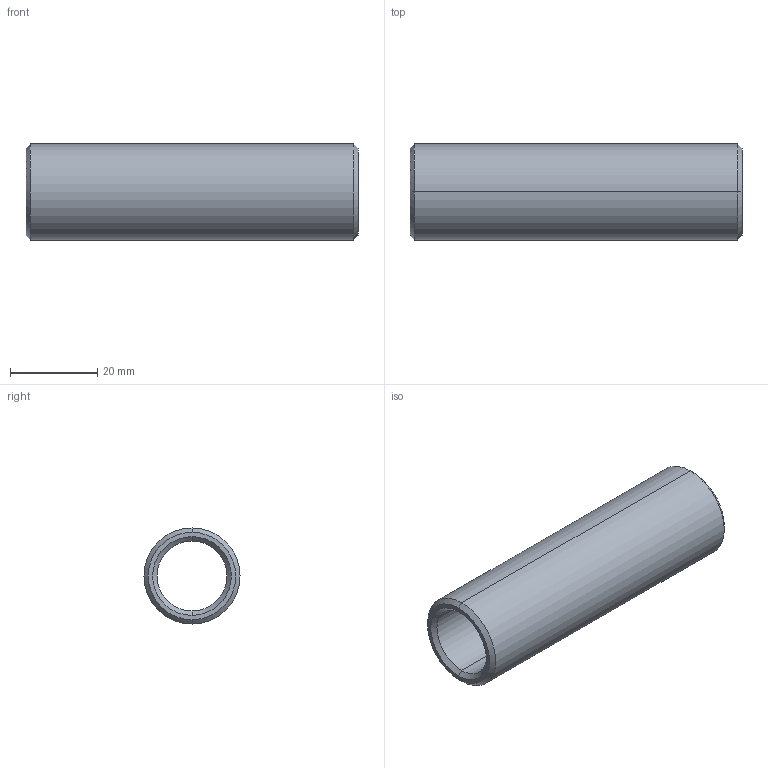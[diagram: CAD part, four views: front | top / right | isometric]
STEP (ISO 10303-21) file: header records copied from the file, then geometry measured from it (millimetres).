
FILE_DESCRIPTION(('CATIA V5 STEP Exchange'),'2;1');
FILE_NAME('C:\Users\Utente\Desktop\IO LAVORO\3D X SITO CF\X SITO\PLASTICA\352\352-16X76.stp','2021-04-10T09:02:40+00:00',('none'),('none'),'CATIA Version 5 Release 20 GA (IN-10)','CATIA V5 STEP AP203','none');
FILE_SCHEMA(('CONFIG_CONTROL_DESIGN'));
Length unit declared in the file: millimetre
Products named in the file (1): 352-16X76
Bounding box: 76 x 22 x 22 mm (x, y, z)
Volume: 13505.1 mm3; surface area: 9298.2 mm2
Topology: 1 solids, 1 shells, 14 faces, 44 edges, 32 vertices
Faces by surface type: cone 6, cylinder 4, plane 2, torus 2
Entity records: 634 total; most frequent: CARTESIAN_POINT 203, ORIENTED_EDGE 88, DIRECTION 64, EDGE_CURVE 44, AXIS2_PLACEMENT_3D 41, VERTEX_POINT 32, CIRCLE 26, EDGE_LOOP 16
